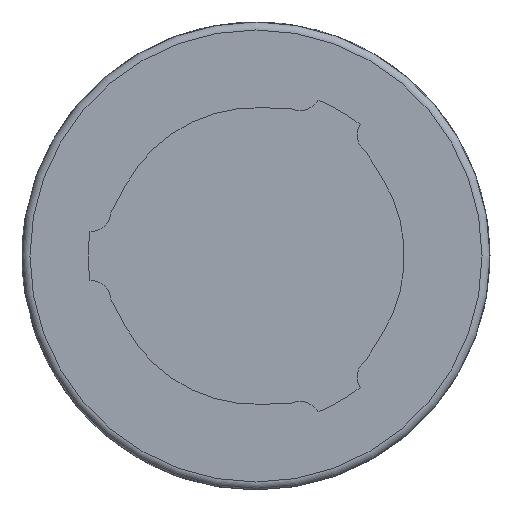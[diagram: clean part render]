
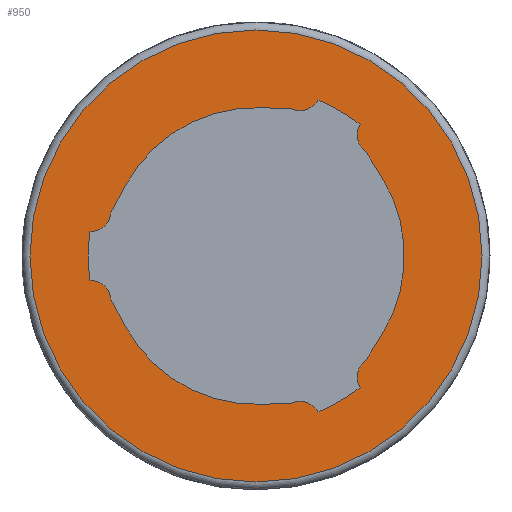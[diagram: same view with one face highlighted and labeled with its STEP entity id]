
A CAD part, left-side view. The second image highlights one B-rep face of the part: STEP entity #950.
In plain terms, the highlighted planar face has unit normal (-1, 0, 0).
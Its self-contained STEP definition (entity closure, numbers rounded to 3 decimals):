
#48=PLANE('',#1057);
#92=LINE('',#1550,#162);
#93=LINE('',#1559,#163);
#94=LINE('',#1563,#164);
#95=LINE('',#1571,#165);
#96=LINE('',#1575,#166);
#97=LINE('',#1583,#167);
#162=VECTOR('',#1255,1000.);
#163=VECTOR('',#1262,1000.);
#164=VECTOR('',#1265,1000.);
#165=VECTOR('',#1272,1000.);
#166=VECTOR('',#1275,1000.);
#167=VECTOR('',#1282,1000.);
#310=ORIENTED_EDGE('',*,*,#528,.F.);
#311=ORIENTED_EDGE('',*,*,#529,.T.);
#312=ORIENTED_EDGE('',*,*,#530,.F.);
#313=ORIENTED_EDGE('',*,*,#531,.T.);
#314=ORIENTED_EDGE('',*,*,#532,.F.);
#315=ORIENTED_EDGE('',*,*,#533,.T.);
#316=ORIENTED_EDGE('',*,*,#534,.T.);
#317=ORIENTED_EDGE('',*,*,#535,.T.);
#318=ORIENTED_EDGE('',*,*,#536,.F.);
#319=ORIENTED_EDGE('',*,*,#537,.T.);
#320=ORIENTED_EDGE('',*,*,#538,.F.);
#321=ORIENTED_EDGE('',*,*,#539,.T.);
#322=ORIENTED_EDGE('',*,*,#540,.T.);
#323=ORIENTED_EDGE('',*,*,#541,.T.);
#324=ORIENTED_EDGE('',*,*,#542,.F.);
#325=ORIENTED_EDGE('',*,*,#543,.T.);
#326=ORIENTED_EDGE('',*,*,#544,.F.);
#327=ORIENTED_EDGE('',*,*,#545,.T.);
#328=ORIENTED_EDGE('',*,*,#546,.T.);
#528=EDGE_CURVE('',#646,#646,#728,.T.);
#529=EDGE_CURVE('',#647,#648,#92,.T.);
#530=EDGE_CURVE('',#649,#648,#729,.T.);
#531=EDGE_CURVE('',#649,#650,#730,.T.);
#532=EDGE_CURVE('',#651,#650,#731,.T.);
#533=EDGE_CURVE('',#651,#652,#93,.T.);
#534=EDGE_CURVE('',#652,#653,#732,.T.);
#535=EDGE_CURVE('',#653,#654,#94,.T.);
#536=EDGE_CURVE('',#655,#654,#733,.T.);
#537=EDGE_CURVE('',#655,#656,#734,.T.);
#538=EDGE_CURVE('',#657,#656,#735,.T.);
#539=EDGE_CURVE('',#657,#658,#95,.T.);
#540=EDGE_CURVE('',#658,#659,#736,.T.);
#541=EDGE_CURVE('',#659,#660,#96,.T.);
#542=EDGE_CURVE('',#661,#660,#737,.T.);
#543=EDGE_CURVE('',#661,#662,#738,.T.);
#544=EDGE_CURVE('',#663,#662,#739,.T.);
#545=EDGE_CURVE('',#663,#664,#97,.T.);
#546=EDGE_CURVE('',#664,#647,#740,.T.);
#646=VERTEX_POINT('',#1549);
#647=VERTEX_POINT('',#1551);
#648=VERTEX_POINT('',#1552);
#649=VERTEX_POINT('',#1554);
#650=VERTEX_POINT('',#1556);
#651=VERTEX_POINT('',#1558);
#652=VERTEX_POINT('',#1560);
#653=VERTEX_POINT('',#1562);
#654=VERTEX_POINT('',#1564);
#655=VERTEX_POINT('',#1566);
#656=VERTEX_POINT('',#1568);
#657=VERTEX_POINT('',#1570);
#658=VERTEX_POINT('',#1572);
#659=VERTEX_POINT('',#1574);
#660=VERTEX_POINT('',#1576);
#661=VERTEX_POINT('',#1578);
#662=VERTEX_POINT('',#1580);
#663=VERTEX_POINT('',#1582);
#664=VERTEX_POINT('',#1584);
#728=CIRCLE('',#1058,99.);
#729=CIRCLE('',#1059,9.08);
#730=CIRCLE('',#1060,73.5);
#731=CIRCLE('',#1061,9.08);
#732=CIRCLE('',#1062,65.);
#733=CIRCLE('',#1063,9.08);
#734=CIRCLE('',#1064,73.5);
#735=CIRCLE('',#1065,9.08);
#736=CIRCLE('',#1066,65.);
#737=CIRCLE('',#1067,9.08);
#738=CIRCLE('',#1068,73.5);
#739=CIRCLE('',#1069,9.08);
#740=CIRCLE('',#1070,65.);
#783=EDGE_LOOP('',(#310));
#784=EDGE_LOOP('',(#311,#312,#313,#314,#315,#316,#317,#318,#319,#320,#321,
#322,#323,#324,#325,#326,#327,#328));
#851=FACE_BOUND('',#783,.T.);
#852=FACE_BOUND('',#784,.T.);
#950=ADVANCED_FACE('',(#851,#852),#48,.F.);
#1057=AXIS2_PLACEMENT_3D('',#1547,#1251,#1252);
#1058=AXIS2_PLACEMENT_3D('',#1548,#1253,#1254);
#1059=AXIS2_PLACEMENT_3D('',#1553,#1256,#1257);
#1060=AXIS2_PLACEMENT_3D('',#1555,#1258,#1259);
#1061=AXIS2_PLACEMENT_3D('',#1557,#1260,#1261);
#1062=AXIS2_PLACEMENT_3D('',#1561,#1263,#1264);
#1063=AXIS2_PLACEMENT_3D('',#1565,#1266,#1267);
#1064=AXIS2_PLACEMENT_3D('',#1567,#1268,#1269);
#1065=AXIS2_PLACEMENT_3D('',#1569,#1270,#1271);
#1066=AXIS2_PLACEMENT_3D('',#1573,#1273,#1274);
#1067=AXIS2_PLACEMENT_3D('',#1577,#1276,#1277);
#1068=AXIS2_PLACEMENT_3D('',#1579,#1278,#1279);
#1069=AXIS2_PLACEMENT_3D('',#1581,#1280,#1281);
#1070=AXIS2_PLACEMENT_3D('',#1585,#1283,#1284);
#1251=DIRECTION('',(1.,0.,0.));
#1252=DIRECTION('',(0.,0.,-1.));
#1253=DIRECTION('',(1.,0.,0.));
#1254=DIRECTION('',(0.,0.,-1.));
#1255=DIRECTION('',(0.,-0.999,-0.035));
#1256=DIRECTION('',(1.,0.,0.));
#1257=DIRECTION('',(0.,0.,-1.));
#1258=DIRECTION('',(1.,0.,0.));
#1259=DIRECTION('',(0.,0.,-1.));
#1260=DIRECTION('',(1.,0.,0.));
#1261=DIRECTION('',(0.,0.,-1.));
#1262=DIRECTION('',(0.,-0.53,-0.848));
#1263=DIRECTION('',(1.,0.,0.));
#1264=DIRECTION('',(0.,0.,-1.));
#1265=DIRECTION('',(0.,0.53,-0.848));
#1266=DIRECTION('',(1.,0.,0.));
#1267=DIRECTION('',(0.,0.,-1.));
#1268=DIRECTION('',(1.,0.,0.));
#1269=DIRECTION('',(0.,0.,-1.));
#1270=DIRECTION('',(1.,0.,0.));
#1271=DIRECTION('',(0.,0.,-1.));
#1272=DIRECTION('',(0.,0.999,-0.035));
#1273=DIRECTION('',(1.,0.,0.));
#1274=DIRECTION('',(0.,0.,-1.));
#1275=DIRECTION('',(0.,0.469,0.883));
#1276=DIRECTION('',(1.,0.,0.));
#1277=DIRECTION('',(0.,0.,-1.));
#1278=DIRECTION('',(1.,0.,0.));
#1279=DIRECTION('',(0.,0.,-1.));
#1280=DIRECTION('',(1.,0.,0.));
#1281=DIRECTION('',(0.,0.,-1.));
#1282=DIRECTION('',(0.,-0.469,0.883));
#1283=DIRECTION('',(1.,0.,0.));
#1284=DIRECTION('',(0.,0.,-1.));
#1547=CARTESIAN_POINT('',(0.,0.,0.));
#1548=CARTESIAN_POINT('',(0.,0.,0.));
#1549=CARTESIAN_POINT('',(0.,0.,-99.));
#1550=CARTESIAN_POINT('',(0.,-2.268,64.96));
#1551=CARTESIAN_POINT('',(0.,-2.268,64.96));
#1552=CARTESIAN_POINT('',(0.,-15.432,64.501));
#1553=CARTESIAN_POINT('',(0.,-19.237,72.745));
#1554=CARTESIAN_POINT('',(0.,-27.155,68.3));
#1555=CARTESIAN_POINT('',(0.,0.,0.));
#1556=CARTESIAN_POINT('',(0.,-45.572,57.667));
#1557=CARTESIAN_POINT('',(0.,-53.38,53.033));
#1558=CARTESIAN_POINT('',(0.,-48.143,45.615));
#1559=CARTESIAN_POINT('',(0.,-48.143,45.615));
#1560=CARTESIAN_POINT('',(0.,-55.123,34.445));
#1561=CARTESIAN_POINT('',(0.,0.,0.));
#1562=CARTESIAN_POINT('',(0.,-55.123,-34.445));
#1563=CARTESIAN_POINT('',(0.,-55.123,-34.445));
#1564=CARTESIAN_POINT('',(0.,-48.143,-45.615));
#1565=CARTESIAN_POINT('',(0.,-53.38,-53.033));
#1566=CARTESIAN_POINT('',(0.,-45.572,-57.667));
#1567=CARTESIAN_POINT('',(0.,0.,0.));
#1568=CARTESIAN_POINT('',(0.,-27.155,-68.3));
#1569=CARTESIAN_POINT('',(0.,-19.237,-72.745));
#1570=CARTESIAN_POINT('',(0.,-15.432,-64.501));
#1571=CARTESIAN_POINT('',(0.,-15.432,-64.501));
#1572=CARTESIAN_POINT('',(0.,-2.268,-64.96));
#1573=CARTESIAN_POINT('',(0.,0.,0.));
#1574=CARTESIAN_POINT('',(0.,57.392,-30.516));
#1575=CARTESIAN_POINT('',(0.,57.392,-30.516));
#1576=CARTESIAN_POINT('',(0.,63.575,-18.886));
#1577=CARTESIAN_POINT('',(0.,72.617,-19.712));
#1578=CARTESIAN_POINT('',(0.,72.727,-10.633));
#1579=CARTESIAN_POINT('',(0.,0.,0.));
#1580=CARTESIAN_POINT('',(0.,72.727,10.633));
#1581=CARTESIAN_POINT('',(0.,72.617,19.712));
#1582=CARTESIAN_POINT('',(0.,63.575,18.886));
#1583=CARTESIAN_POINT('',(0.,63.575,18.886));
#1584=CARTESIAN_POINT('',(0.,57.392,30.516));
#1585=CARTESIAN_POINT('',(0.,0.,0.));
